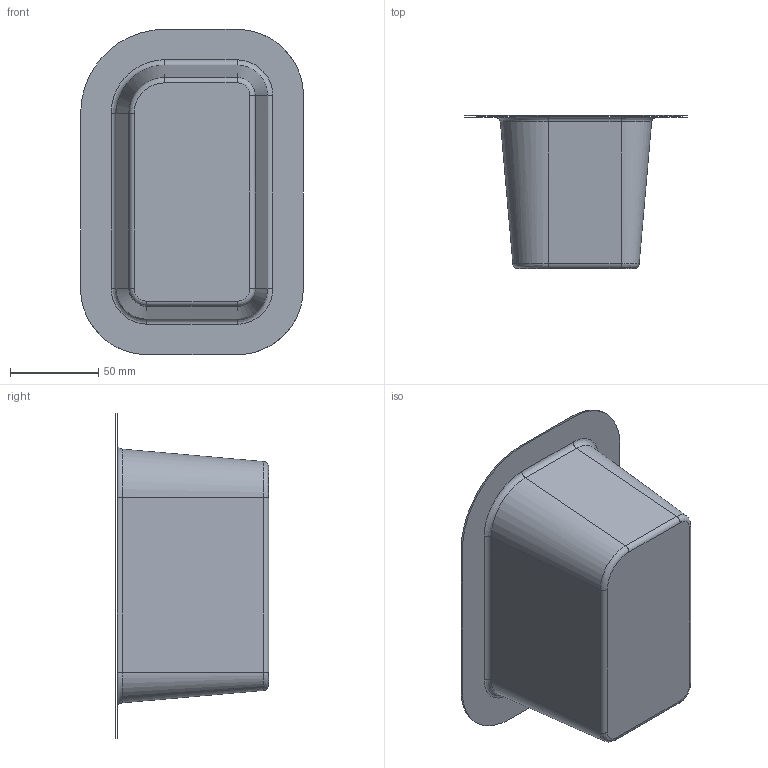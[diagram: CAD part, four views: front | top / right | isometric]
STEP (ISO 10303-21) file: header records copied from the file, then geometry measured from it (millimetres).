
FILE_DESCRIPTION(('CATIA V5 STEP Exchange'),'2;1');
FILE_NAME('C:\_Andres\UNIVERSIDAD\IQS\ASIGNATURAS\DAO\Controles\1617\c3\2inicio\Sala_Ferrero_control3_v29.stp','2017-02-17T14:22:12+00:00',('none'),('none'),'CATIA Version 5-6 Release 2014 SP1 HF18','CATIA V5 STEP AP203','none');
FILE_SCHEMA(('CONFIG_CONTROL_DESIGN'));
Length unit declared in the file: millimetre
Products named in the file (1): Sala_Ferrero_control3_v29
Bounding box: 125.99 x 86.67 x 183.99 mm (x, y, z)
Surface area: 74307.2 mm2 (no closed solid volume)
Topology: 0 solids, 2 shells, 27 faces, 80 edges, 57 vertices
Faces by surface type: bspline 16, cylinder 8, plane 3
Entity records: 1937 total; most frequent: CARTESIAN_POINT 1341, ORIENTED_EDGE 128, EDGE_CURVE 72, B_SPLINE_CURVE_WITH_KNOTS 54, DIRECTION 50, VERTEX_POINT 48, EDGE_LOOP 28, ADVANCED_FACE 27
